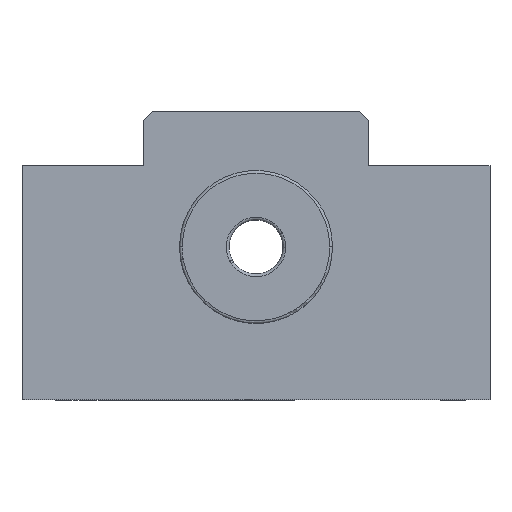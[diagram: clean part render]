
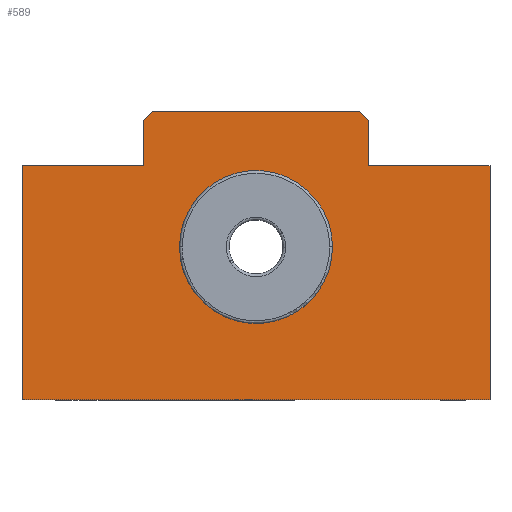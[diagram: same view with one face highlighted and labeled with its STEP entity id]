
A CAD part, left-side view. The second image highlights one B-rep face of the part: STEP entity #589.
In plain terms, the highlighted planar face has unit normal (-1, 0, 0).
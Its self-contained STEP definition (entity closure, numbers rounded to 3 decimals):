
#310=CARTESIAN_POINT('Vertex',(-7.,26.,9.)) ;
#315=CARTESIAN_POINT('Line Origine',(-7.,19.25,9.)) ;
#319=CARTESIAN_POINT('Vertex',(-7.,12.5,9.)) ;
#354=CARTESIAN_POINT('Vertex',(-7.,-26.,-17.)) ;
#359=CARTESIAN_POINT('Line Origine',(-7.,0.,-17.)) ;
#363=CARTESIAN_POINT('Vertex',(-7.,26.,-17.)) ;
#448=CARTESIAN_POINT('Line Origine',(-7.,26.,-4.)) ;
#465=CARTESIAN_POINT('Axis2P3D Location',(-7.,0.,0.)) ;
#470=CARTESIAN_POINT('Line Origine',(-7.,-12.,14.5)) ;
#474=CARTESIAN_POINT('Vertex',(-7.,-11.5,15.)) ;
#476=CARTESIAN_POINT('Vertex',(-7.,-12.5,14.)) ;
#479=CARTESIAN_POINT('Line Origine',(-7.,0.,15.)) ;
#483=CARTESIAN_POINT('Vertex',(-7.,11.5,15.)) ;
#486=CARTESIAN_POINT('Line Origine',(-7.,12.,14.5)) ;
#490=CARTESIAN_POINT('Vertex',(-7.,12.5,14.)) ;
#493=CARTESIAN_POINT('Line Origine',(-7.,12.5,11.5)) ;
#498=CARTESIAN_POINT('Line Origine',(-7.,-26.,-4.)) ;
#502=CARTESIAN_POINT('Vertex',(-7.,-26.,9.)) ;
#505=CARTESIAN_POINT('Line Origine',(-7.,-19.25,9.)) ;
#509=CARTESIAN_POINT('Vertex',(-7.,-12.5,9.)) ;
#512=CARTESIAN_POINT('Line Origine',(-7.,-12.5,11.5)) ;
#530=CARTESIAN_POINT('Control Point',(-7.,-7.459,4.075)) ;
#531=CARTESIAN_POINT('Control Point',(-7.,-7.049,4.827)) ;
#532=CARTESIAN_POINT('Control Point',(-7.,-6.543,5.527)) ;
#533=CARTESIAN_POINT('Control Point',(-7.,-5.951,6.16)) ;
#534=CARTESIAN_POINT('Control Point',(-7.,-4.621,7.262)) ;
#535=CARTESIAN_POINT('Control Point',(-7.,-3.059,8.)) ;
#536=CARTESIAN_POINT('Control Point',(-7.,-2.236,8.268)) ;
#537=CARTESIAN_POINT('Control Point',(-7.,-0.538,8.591)) ;
#538=CARTESIAN_POINT('Control Point',(-7.,1.186,8.483)) ;
#539=CARTESIAN_POINT('Control Point',(-7.,2.036,8.32)) ;
#540=CARTESIAN_POINT('Control Point',(-7.,3.678,7.783)) ;
#541=CARTESIAN_POINT('Control Point',(-7.,5.135,6.855)) ;
#542=CARTESIAN_POINT('Control Point',(-7.,5.802,6.301)) ;
#543=CARTESIAN_POINT('Control Point',(-7.,6.98,5.038)) ;
#544=CARTESIAN_POINT('Control Point',(-7.,7.808,3.522)) ;
#545=CARTESIAN_POINT('Control Point',(-7.,8.124,2.715)) ;
#546=CARTESIAN_POINT('Control Point',(-7.,8.545,1.04)) ;
#547=CARTESIAN_POINT('Control Point',(-7.,8.538,-0.688)) ;
#548=CARTESIAN_POINT('Control Point',(-7.,8.424,-1.546)) ;
#549=CARTESIAN_POINT('Control Point',(-7.,8.153,-2.575)) ;
#550=CARTESIAN_POINT('Control Point',(-7.,7.73,-3.543)) ;
#551=CARTESIAN_POINT('Control Point',(-7.,7.645,-3.723)) ;
#552=CARTESIAN_POINT('Control Point',(-7.,7.555,-3.901)) ;
#553=CARTESIAN_POINT('Control Point',(-7.,7.459,-4.075)) ;
#554=CARTESIAN_POINT('Vertex',(-7.,7.459,-4.075)) ;
#556=CARTESIAN_POINT('Vertex',(-7.,-7.459,4.075)) ;
#560=CARTESIAN_POINT('Control Point',(-7.,7.459,-4.075)) ;
#561=CARTESIAN_POINT('Control Point',(-7.,7.049,-4.827)) ;
#562=CARTESIAN_POINT('Control Point',(-7.,6.543,-5.527)) ;
#563=CARTESIAN_POINT('Control Point',(-7.,5.951,-6.16)) ;
#564=CARTESIAN_POINT('Control Point',(-7.,4.621,-7.262)) ;
#565=CARTESIAN_POINT('Control Point',(-7.,3.059,-8.)) ;
#566=CARTESIAN_POINT('Control Point',(-7.,2.236,-8.268)) ;
#567=CARTESIAN_POINT('Control Point',(-7.,0.538,-8.591)) ;
#568=CARTESIAN_POINT('Control Point',(-7.,-1.186,-8.483)) ;
#569=CARTESIAN_POINT('Control Point',(-7.,-2.036,-8.32)) ;
#570=CARTESIAN_POINT('Control Point',(-7.,-3.678,-7.783)) ;
#571=CARTESIAN_POINT('Control Point',(-7.,-5.135,-6.855)) ;
#572=CARTESIAN_POINT('Control Point',(-7.,-5.802,-6.301)) ;
#573=CARTESIAN_POINT('Control Point',(-7.,-6.98,-5.038)) ;
#574=CARTESIAN_POINT('Control Point',(-7.,-7.808,-3.522)) ;
#575=CARTESIAN_POINT('Control Point',(-7.,-8.124,-2.715)) ;
#576=CARTESIAN_POINT('Control Point',(-7.,-8.545,-1.04)) ;
#577=CARTESIAN_POINT('Control Point',(-7.,-8.538,0.688)) ;
#578=CARTESIAN_POINT('Control Point',(-7.,-8.424,1.546)) ;
#579=CARTESIAN_POINT('Control Point',(-7.,-8.153,2.575)) ;
#580=CARTESIAN_POINT('Control Point',(-7.,-7.73,3.543)) ;
#581=CARTESIAN_POINT('Control Point',(-7.,-7.645,3.723)) ;
#582=CARTESIAN_POINT('Control Point',(-7.,-7.555,3.901)) ;
#583=CARTESIAN_POINT('Control Point',(-7.,-7.459,4.075)) ;
#316=DIRECTION('Vector Direction',(0.,1.,0.)) ;
#360=DIRECTION('Vector Direction',(0.,-1.,0.)) ;
#449=DIRECTION('Vector Direction',(0.,0.,-1.)) ;
#466=DIRECTION('Axis2P3D Direction',(1.,0.,0.)) ;
#467=DIRECTION('Axis2P3D XDirection',(0.,1.,0.)) ;
#471=DIRECTION('Vector Direction',(0.,-0.707,-0.707)) ;
#480=DIRECTION('Vector Direction',(0.,1.,0.)) ;
#487=DIRECTION('Vector Direction',(0.,0.707,-0.707)) ;
#494=DIRECTION('Vector Direction',(0.,0.,-1.)) ;
#499=DIRECTION('Vector Direction',(0.,0.,1.)) ;
#506=DIRECTION('Vector Direction',(0.,1.,0.)) ;
#513=DIRECTION('Vector Direction',(0.,0.,1.)) ;
#468=AXIS2_PLACEMENT_3D('Plane Axis2P3D',#465,#466,#467) ;
#518=ORIENTED_EDGE('',*,*,#478,.F.) ;
#519=ORIENTED_EDGE('',*,*,#485,.F.) ;
#520=ORIENTED_EDGE('',*,*,#492,.F.) ;
#521=ORIENTED_EDGE('',*,*,#497,.F.) ;
#522=ORIENTED_EDGE('',*,*,#321,.F.) ;
#523=ORIENTED_EDGE('',*,*,#452,.F.) ;
#524=ORIENTED_EDGE('',*,*,#365,.F.) ;
#525=ORIENTED_EDGE('',*,*,#504,.F.) ;
#526=ORIENTED_EDGE('',*,*,#511,.F.) ;
#527=ORIENTED_EDGE('',*,*,#516,.F.) ;
#586=ORIENTED_EDGE('',*,*,#558,.T.) ;
#587=ORIENTED_EDGE('',*,*,#584,.T.) ;
#588=FACE_BOUND('',#585,.T.) ;
#317=VECTOR('Line Direction',#316,1.) ;
#361=VECTOR('Line Direction',#360,1.) ;
#450=VECTOR('Line Direction',#449,1.) ;
#472=VECTOR('Line Direction',#471,1.) ;
#481=VECTOR('Line Direction',#480,1.) ;
#488=VECTOR('Line Direction',#487,1.) ;
#495=VECTOR('Line Direction',#494,1.) ;
#500=VECTOR('Line Direction',#499,1.) ;
#507=VECTOR('Line Direction',#506,1.) ;
#514=VECTOR('Line Direction',#513,1.) ;
#589=ADVANCED_FACE('EF8(H)',(#528,#588),#469,.F.) ;
#529=B_SPLINE_CURVE_WITH_KNOTS('',5,(#530,#531,#532,#533,#534,#535,#536,#537,#538,#539,#540,#541,#542,#543,#544,#545,#546,#547,#548,#549,#550,#551,#552,#553),.UNSPECIFIED.,.F.,.U.,(6,3,3,3,3,3,3,6),(0.,6.06,12.119,18.179,24.239,30.298,36.358,37.764),.UNSPECIFIED.) ;
#559=B_SPLINE_CURVE_WITH_KNOTS('',5,(#560,#561,#562,#563,#564,#565,#566,#567,#568,#569,#570,#571,#572,#573,#574,#575,#576,#577,#578,#579,#580,#581,#582,#583),.UNSPECIFIED.,.F.,.U.,(6,3,3,3,3,3,3,6),(0.,6.06,12.119,18.179,24.239,30.298,36.358,37.764),.UNSPECIFIED.) ;
#321=EDGE_CURVE('',#311,#320,#318,.F.) ;
#365=EDGE_CURVE('',#355,#364,#362,.F.) ;
#452=EDGE_CURVE('',#364,#311,#451,.F.) ;
#478=EDGE_CURVE('',#475,#477,#473,.T.) ;
#485=EDGE_CURVE('',#484,#475,#482,.F.) ;
#492=EDGE_CURVE('',#491,#484,#489,.F.) ;
#497=EDGE_CURVE('',#320,#491,#496,.F.) ;
#504=EDGE_CURVE('',#503,#355,#501,.F.) ;
#511=EDGE_CURVE('',#510,#503,#508,.F.) ;
#516=EDGE_CURVE('',#477,#510,#515,.F.) ;
#558=EDGE_CURVE('',#555,#557,#529,.F.) ;
#584=EDGE_CURVE('',#557,#555,#559,.F.) ;
#517=EDGE_LOOP('',(#518,#519,#520,#521,#522,#523,#524,#525,#526,#527)) ;
#585=EDGE_LOOP('',(#586,#587)) ;
#528=FACE_OUTER_BOUND('',#517,.T.) ;
#318=LINE('Line',#315,#317) ;
#362=LINE('Line',#359,#361) ;
#451=LINE('Line',#448,#450) ;
#473=LINE('Line',#470,#472) ;
#482=LINE('Line',#479,#481) ;
#489=LINE('Line',#486,#488) ;
#496=LINE('Line',#493,#495) ;
#501=LINE('Line',#498,#500) ;
#508=LINE('Line',#505,#507) ;
#515=LINE('Line',#512,#514) ;
#469=PLANE('Plane',#468) ;
#311=VERTEX_POINT('',#310) ;
#320=VERTEX_POINT('',#319) ;
#355=VERTEX_POINT('',#354) ;
#364=VERTEX_POINT('',#363) ;
#475=VERTEX_POINT('',#474) ;
#477=VERTEX_POINT('',#476) ;
#484=VERTEX_POINT('',#483) ;
#491=VERTEX_POINT('',#490) ;
#503=VERTEX_POINT('',#502) ;
#510=VERTEX_POINT('',#509) ;
#555=VERTEX_POINT('',#554) ;
#557=VERTEX_POINT('',#556) ;
